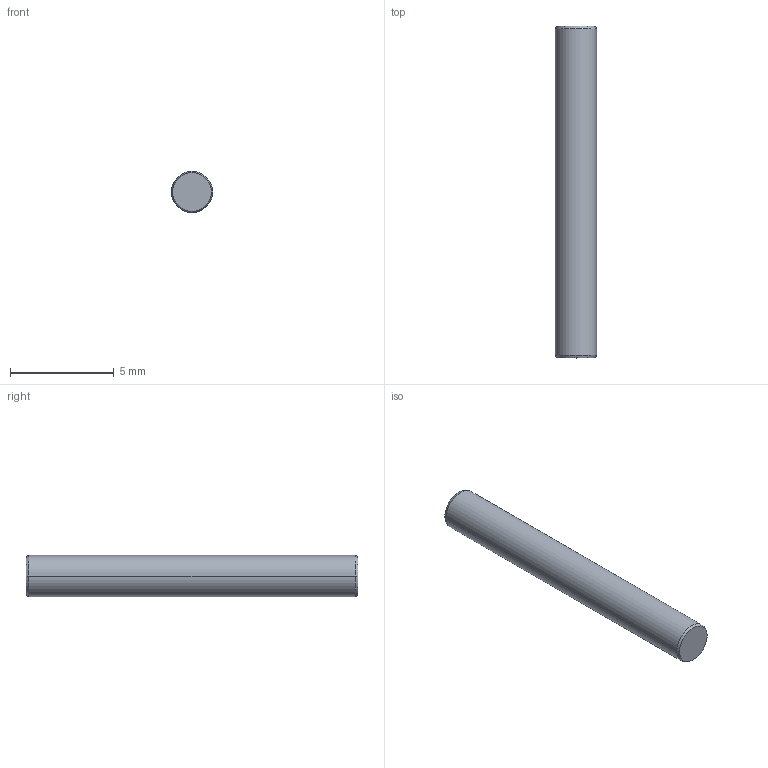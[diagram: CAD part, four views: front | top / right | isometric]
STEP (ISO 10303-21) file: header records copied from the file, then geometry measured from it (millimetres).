
FILE_DESCRIPTION((''),'2;1');
FILE_NAME('PIN','2024-02-21T17:14:12',('qinghui.yi'),(''),'CREO PARAMETRIC BY PTC INC, 2019164','CREO PARAMETRIC BY PTC INC, 2019164','');
FILE_SCHEMA(('CONFIG_CONTROL_DESIGN','SHAPE_APPEARANCE_LAYERS_GROUPS'));
Length unit declared in the file: millimetre
Products named in the file (1): PIN
Bounding box: 2 x 16 x 2 mm (x, y, z)
Volume: 50.2 mm3; surface area: 106.2 mm2
Topology: 1 solids, 1 shells, 8 faces, 17 edges, 14 vertices
Faces by surface type: cone 4, plane 2, cylinder 2
Entity records: 593 total; most frequent: COLOUR_RGB 312, DIRECTION 43, CARTESIAN_POINT 34, ORIENTED_EDGE 28, AXIS2_PLACEMENT_3D 17, EDGE_CURVE 14, VECTOR 9, LINE 9
